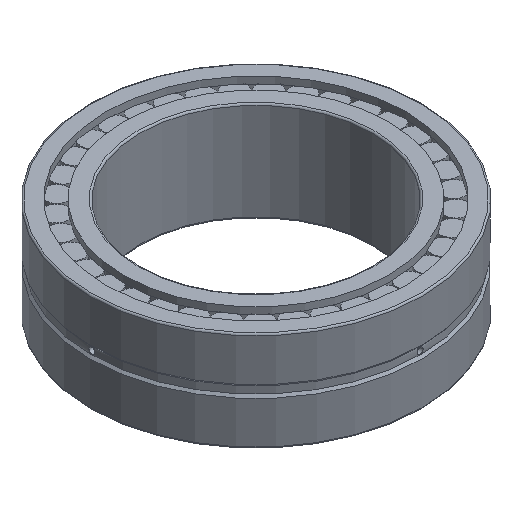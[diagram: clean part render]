
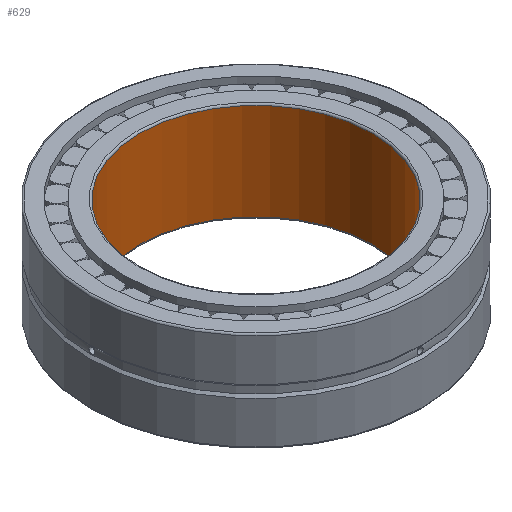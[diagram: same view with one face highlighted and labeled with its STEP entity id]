
A CAD part, isometric view. The second image highlights one B-rep face of the part: STEP entity #629.
In plain terms, the highlighted cylindrical face has radius 35 mm (diameter 70 mm), a full revolution.
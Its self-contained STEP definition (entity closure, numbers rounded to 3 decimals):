
#214=CYLINDRICAL_SURFACE('',#680,35.);
#235=FACE_BOUND('',#325,.T.);
#280=FACE_OUTER_BOUND('',#324,.T.);
#324=EDGE_LOOP('',(#538));
#325=EDGE_LOOP('',(#539));
#411=CIRCLE('',#679,35.);
#412=CIRCLE('',#681,35.);
#449=VERTEX_POINT('',#1058);
#450=VERTEX_POINT('',#1061);
#493=EDGE_CURVE('',#449,#449,#411,.T.);
#494=EDGE_CURVE('',#450,#450,#412,.T.);
#538=ORIENTED_EDGE('',*,*,#494,.F.);
#539=ORIENTED_EDGE('',*,*,#493,.F.);
#629=ADVANCED_FACE('',(#280,#235),#214,.F.);
#679=AXIS2_PLACEMENT_3D('',#1059,#808,#809);
#680=AXIS2_PLACEMENT_3D('',#1060,#810,#811);
#681=AXIS2_PLACEMENT_3D('',#1062,#812,#813);
#808=DIRECTION('center_axis',(0.,0.,1.));
#809=DIRECTION('ref_axis',(0.,-1.,0.));
#810=DIRECTION('center_axis',(0.,0.,-1.));
#811=DIRECTION('ref_axis',(0.,1.,0.));
#812=DIRECTION('center_axis',(0.,0.,-1.));
#813=DIRECTION('ref_axis',(0.,-1.,0.));
#1058=CARTESIAN_POINT('',(0.,35.,-8.983));
#1059=CARTESIAN_POINT('Origin',(0.,0.,-8.983));
#1060=CARTESIAN_POINT('Origin',(0.,0.,5.517));
#1061=CARTESIAN_POINT('',(0.,35.,20.017));
#1062=CARTESIAN_POINT('Origin',(0.,0.,20.017));
